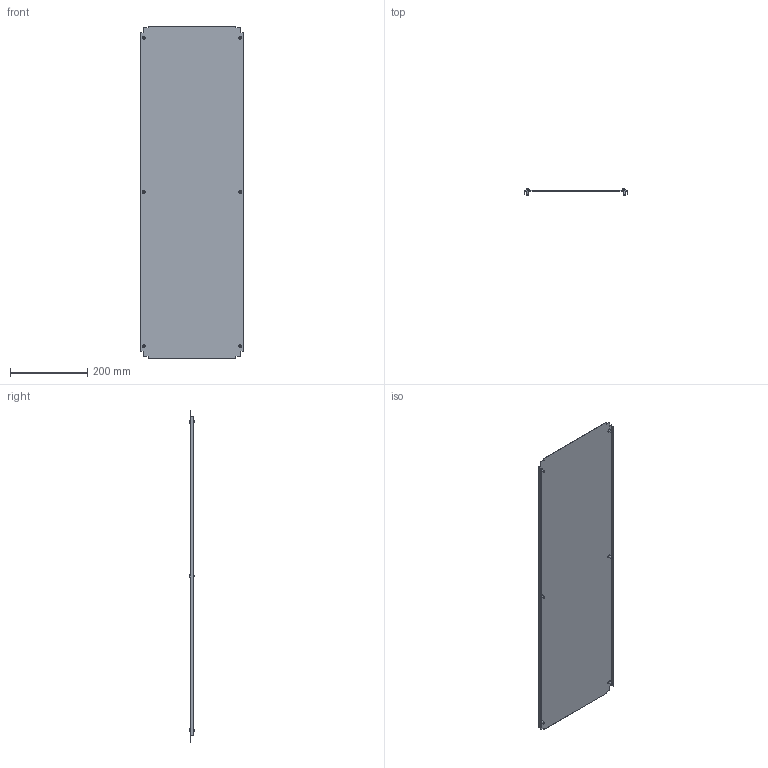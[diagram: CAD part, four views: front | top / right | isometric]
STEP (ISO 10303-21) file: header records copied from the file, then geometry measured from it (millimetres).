
FILE_DESCRIPTION (( 'STEP AP203' ), '1' );
FILE_NAME ('R5N1BP104.STEP', '2025-02-21T13:55:42', ( '' ), ( '' ), 'SwSTEP 2.0', 'SolidWorks 2022', '' );
FILE_SCHEMA (( 'CONFIG_CONTROL_DESIGN' ));
Length unit declared in the file: millimetre
Products named in the file (3): M5x12 DIN 7500 C Torx Zinc_stright; RB.1923.00.00.0_-07; R5N1BP104
Assembly tree (7 placements, depth 2):
  R5N1BP104
    RB.1923.00.00.0_-07
    M5x12 DIN 7500 C Torx Zinc_stright  x6
Bounding box: 268 x 15.56 x 862 mm (x, y, z)
Volume: 366136 mm3; surface area: 490969.4 mm2
Topology: 7 solids, 7 shells, 166 faces, 384 edges, 238 vertices
Faces by surface type: plane 106, cylinder 24, torus 12, cone 12, sphere 6, bspline 6
Full cylindrical faces by diameter (mm): 5 x6, 9.5 x6
Entity records: 3297 total; most frequent: CARTESIAN_POINT 674, ORIENTED_EDGE 448, DIRECTION 444, EDGE_CURVE 224, LINE 180, VECTOR 180, VERTEX_POINT 150, AXIS2_PLACEMENT_3D 132
